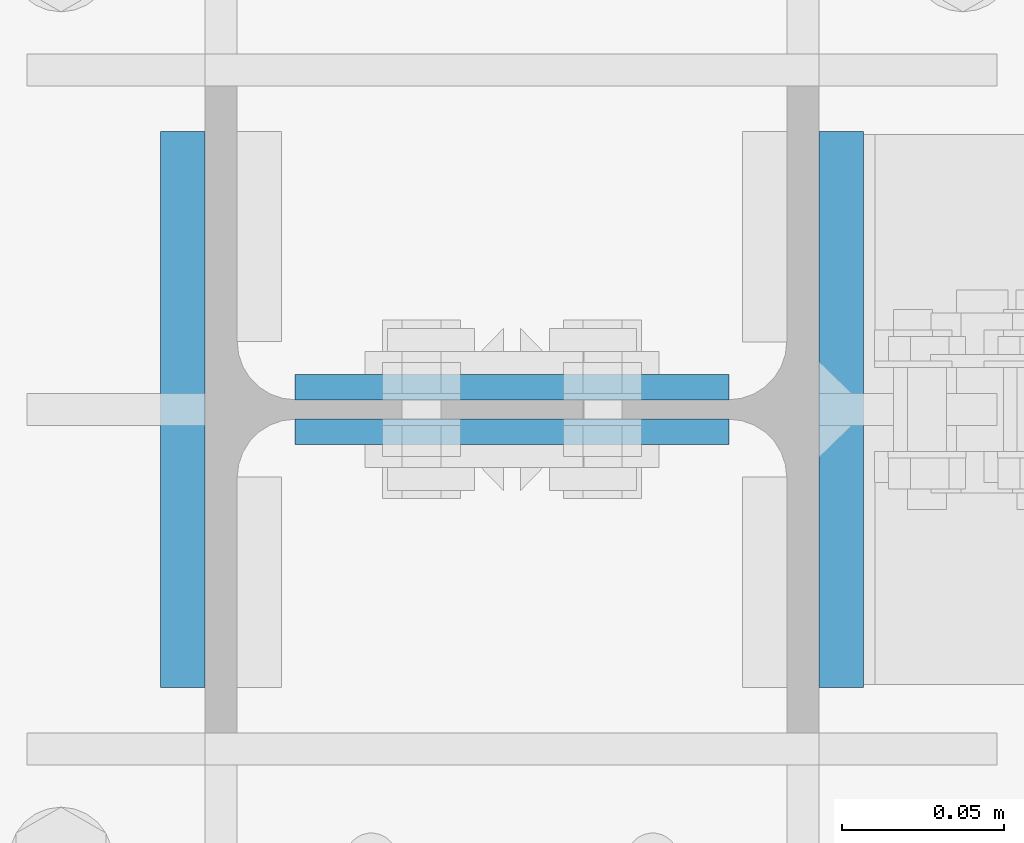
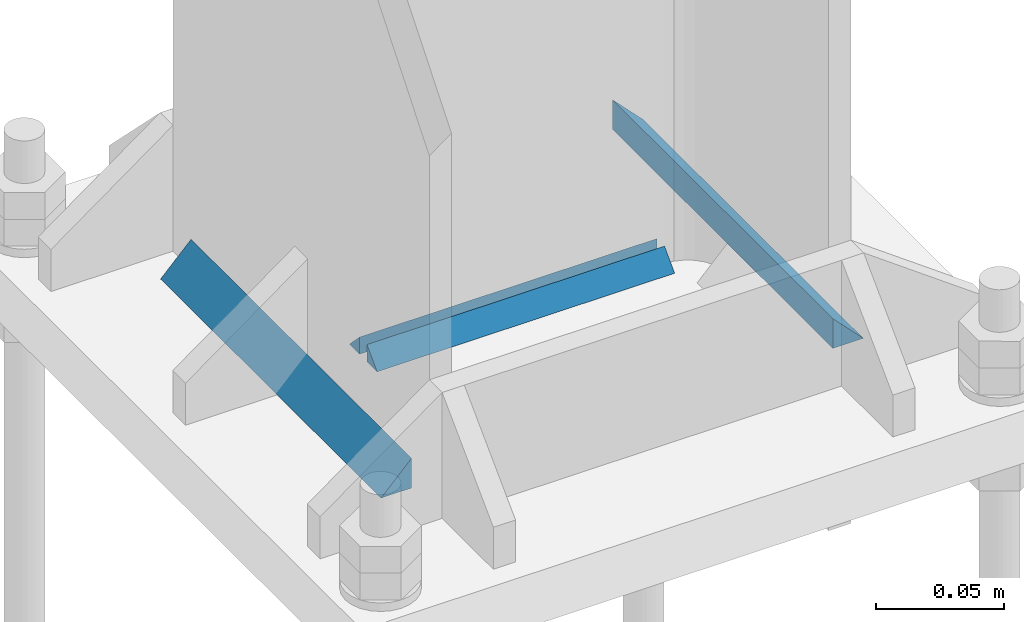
# One storey, part 23 of 251: 8 fasteners.
"""IFC4 building model written with IfcOpenShell, lengths in metres."""

from ifc_helpers import new_model, si_unit, frame, origin_with_axes, place, context, project, spatial, polyline, outline, extrude, type_object, element, save


model = new_model("IFC4")

# Units and contexts
model_context = context("Model", 3, precision=1e-05, world=origin_with_axes())
ifc_project = project(units=[si_unit("LENGTHUNIT", "METRE"), si_unit("AREAUNIT", "SQUARE_METRE"), si_unit("VOLUMEUNIT", "CUBIC_METRE"), si_unit("MASSUNIT", "GRAM", prefix="KILO"), si_unit("TIMEUNIT", "SECOND"), si_unit("PLANEANGLEUNIT", "RADIAN"), si_unit("SOLIDANGLEUNIT", "STERADIAN"), si_unit("THERMODYNAMICTEMPERATUREUNIT", "DEGREE_CELSIUS")], contexts=[model_context])

# Site, building, storey
placement_1 = place(None, origin_with_axes())
site = spatial("IfcSite", under=ifc_project, at=placement_1, Name="Italia", CompositionType="ELEMENT")
building = spatial("IfcBuilding", under=site, at=placement_1, Name="Deposito", CompositionType="ELEMENT")
storey = spatial("IfcBuildingStorey", under=building, at=placement_1, Name="Storey 0", CompositionType="ELEMENT", Elevation=0.0)

# Fasteners
fastener_type_1 = type_object("IfcFastenerType", Name="Collegamenti 0014_-001 0016_-054 0018_-056 0032_-002 0033_-058 0047_-003 0048_-060 0062_-004 0063_-005 0079_-008", PredefinedType="WELD")
placement_2 = place(placement_1, origin_with_axes())
fastener_1_placement = place(placement_2, origin_with_axes())
element("IfcFastener", 1, at=fastener_1_placement, inside=storey, type_object=fastener_type_1, Name="Collegamenti 0014_-001 0016_-054 0018_-056 0032_-002 0033_-058 0047_-003 0048_-060 0062_-004 0063_-005 0079_-008", context=model_context, shape_type="SweptSolid", body=[
    extrude(outline(polyline([(0.0, 0.0), (0.0137482, 0.0141734), (0.0137482, 0.0), (0.0, 0.0)])), frame((5.9413, 5.08605, 0.07495), z_axis=(0.0, -1.0, 0.0), x_axis=(1.0, 0.0, 0.0)), (0.0, 0.0, 1.0), 0.1721),
])
fastener_type_2 = type_object("IfcFastenerType", Name="Collegamenti 0014_-001 0016_-054 0018_-056 0032_-002 0033_-058 0047_-003 0048_-060 0062_-004 0063_-005 0079_-008", PredefinedType="WELD")
fastener_2_placement = place(placement_2, origin_with_axes())
element("IfcFastener", 2, at=fastener_2_placement, inside=storey, type_object=fastener_type_2, Name="Collegamenti 0014_-001 0016_-054 0018_-056 0032_-002 0033_-058 0047_-003 0048_-060 0062_-004 0063_-005 0079_-008", context=model_context, shape_type="SweptSolid", body=[
    extrude(outline(polyline([(0.0, 0.0), (0.0137482, 0.0141734), (0.0137482, 0.0), (0.0, 0.0)])), frame((6.1587, 4.91395, 0.07495), z_axis=(0.0, 1.0, 0.0), x_axis=(-1.0, 0.0, 0.0)), (0.0, 0.0, 1.0), 0.1721),
])
fastener_type_3 = type_object("IfcFastenerType", Name="Collegamenti 0014_-001 0016_-054 0018_-056 0032_-002 0033_-058 0047_-003 0048_-060 0062_-004 0063_-005 0079_-008", PredefinedType="WELD")
fastener_3_placement = place(placement_2, origin_with_axes())
element("IfcFastener", 3, at=fastener_3_placement, inside=storey, type_object=fastener_type_3, Name="Collegamenti 0014_-001 0016_-054 0018_-056 0032_-002 0033_-058 0047_-003 0048_-060 0062_-004 0063_-005 0079_-008", context=model_context, shape_type="SweptSolid", body=[
    extrude(outline(polyline([(0.0, 0.0), (0.00792789, 0.00817336), (0.00792789, 0.0), (0.0, 0.0)])), frame((6.11705, 5.01088, 0.07495), z_axis=(-1.0, 0.0, 0.0), x_axis=(0.0, -1.0, 0.0)), (0.0, 0.0, 1.0), 0.134098),
])
fastener_type_4 = type_object("IfcFastenerType", Name="Collegamenti 0014_-001 0016_-054 0018_-056 0032_-002 0033_-058 0047_-003 0048_-060 0062_-004 0063_-005 0079_-008", PredefinedType="WELD")
fastener_4_placement = place(placement_2, origin_with_axes())
element("IfcFastener", 4, at=fastener_4_placement, inside=storey, type_object=fastener_type_4, Name="Collegamenti 0014_-001 0016_-054 0018_-056 0032_-002 0033_-058 0047_-003 0048_-060 0062_-004 0063_-005 0079_-008", context=model_context, shape_type="SweptSolid", body=[
    extrude(outline(polyline([(0.0, 0.0), (0.00792789, 0.00817336), (0.00792789, 0.0), (0.0, 0.0)])), frame((5.98295, 4.98912, 0.07495), z_axis=(1.0, 0.0, 0.0), x_axis=(0.0, 1.0, 0.0)), (0.0, 0.0, 1.0), 0.134098),
])
fastener_type_5 = type_object("IfcFastenerType", Name="Collegamenti 0014_-001 0016_-054 0018_-056 0032_-002 0033_-058 0047_-003 0048_-060 0062_-004 0063_-005 0079_-008", PredefinedType="WELD")
fastener_5_placement = place(placement_2, origin_with_axes())
element("IfcFastener", 5, at=fastener_5_placement, inside=storey, type_object=fastener_type_5, Name="Collegamenti 0014_-001 0016_-054 0018_-056 0032_-002 0033_-058 0047_-003 0048_-060 0062_-004 0063_-005 0079_-008", context=model_context, shape_type="SweptSolid", body=[
    extrude(outline(polyline([(0.0, 0.0), (0.0137482, 0.0141734), (0.0137482, 0.0), (0.0, 0.0)])), frame((5.9413, 5.08605, 0.07495), z_axis=(0.0, -1.0, 0.0), x_axis=(1.0, 0.0, 0.0)), (0.0, 0.0, 1.0), 0.1721),
])
fastener_type_6 = type_object("IfcFastenerType", Name="Collegamenti 0014_-001 0016_-054 0018_-056 0032_-002 0033_-058 0047_-003 0048_-060 0062_-004 0063_-005 0079_-008", PredefinedType="WELD")
fastener_6_placement = place(placement_2, origin_with_axes())
element("IfcFastener", 6, at=fastener_6_placement, inside=storey, type_object=fastener_type_6, Name="Collegamenti 0014_-001 0016_-054 0018_-056 0032_-002 0033_-058 0047_-003 0048_-060 0062_-004 0063_-005 0079_-008", context=model_context, shape_type="SweptSolid", body=[
    extrude(outline(polyline([(0.0, 0.0), (0.0137482, 0.0141734), (0.0137482, 0.0), (0.0, 0.0)])), frame((6.1587, 4.91395, 0.07495), z_axis=(0.0, 1.0, 0.0), x_axis=(-1.0, 0.0, 0.0)), (0.0, 0.0, 1.0), 0.1721),
])
fastener_type_7 = type_object("IfcFastenerType", Name="Collegamenti 0014_-001 0016_-054 0018_-056 0032_-002 0033_-058 0047_-003 0048_-060 0062_-004 0063_-005 0079_-008", PredefinedType="WELD")
fastener_7_placement = place(placement_2, origin_with_axes())
element("IfcFastener", 7, at=fastener_7_placement, inside=storey, type_object=fastener_type_7, Name="Collegamenti 0014_-001 0016_-054 0018_-056 0032_-002 0033_-058 0047_-003 0048_-060 0062_-004 0063_-005 0079_-008", context=model_context, shape_type="SweptSolid", body=[
    extrude(outline(polyline([(0.0, 0.0), (0.00792789, 0.00817336), (0.00792789, 0.0), (0.0, 0.0)])), frame((6.11705, 5.01088, 0.07495), z_axis=(-1.0, 0.0, 0.0), x_axis=(0.0, -1.0, 0.0)), (0.0, 0.0, 1.0), 0.134098),
])
fastener_type_8 = type_object("IfcFastenerType", Name="Collegamenti 0014_-001 0016_-054 0018_-056 0032_-002 0033_-058 0047_-003 0048_-060 0062_-004 0063_-005 0079_-008", PredefinedType="WELD")
fastener_8_placement = place(placement_2, origin_with_axes())
element("IfcFastener", 8, at=fastener_8_placement, inside=storey, type_object=fastener_type_8, Name="Collegamenti 0014_-001 0016_-054 0018_-056 0032_-002 0033_-058 0047_-003 0048_-060 0062_-004 0063_-005 0079_-008", context=model_context, shape_type="SweptSolid", body=[
    extrude(outline(polyline([(0.0, 0.0), (0.00792789, 0.00817336), (0.00792789, 0.0), (0.0, 0.0)])), frame((5.98295, 4.98912, 0.07495), z_axis=(1.0, 0.0, 0.0), x_axis=(0.0, 1.0, 0.0)), (0.0, 0.0, 1.0), 0.134098),
])

save(model, "model.ifc")
